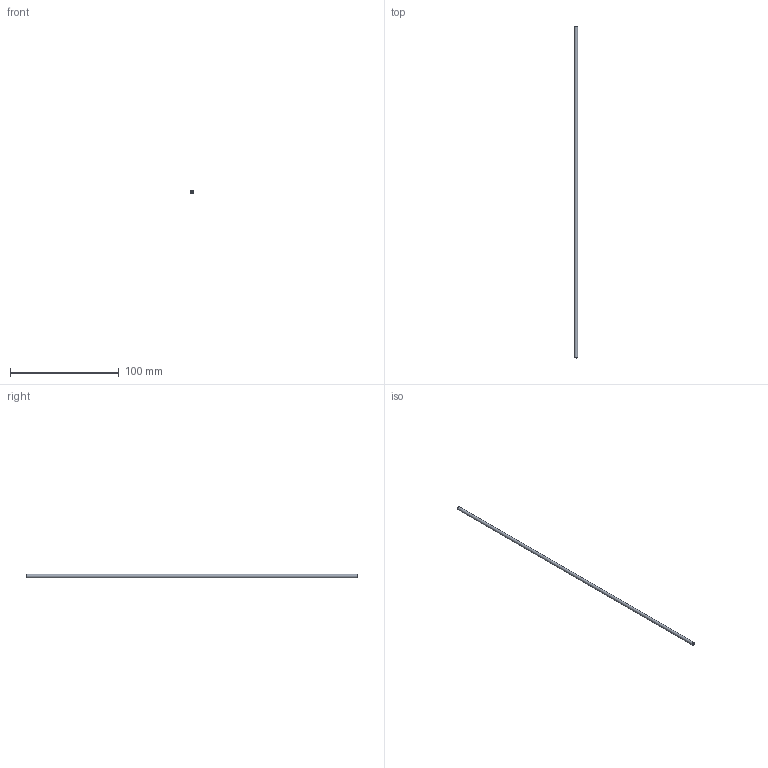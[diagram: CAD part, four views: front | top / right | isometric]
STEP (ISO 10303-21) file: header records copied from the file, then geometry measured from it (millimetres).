
FILE_DESCRIPTION(/* description */ (''),/* implementation_level */ '2;1');
FILE_NAME(/* name */ 'C:/Users/drich/Desktop/125T-12 v1.step',/* time_stamp */ '2019-12-27T17:24:55-06:00',/* author */ (''),/* organization */ (''),/* preprocessor_version */ 'ST-DEVELOPER v18',/* originating_system */ 'Autodesk Translation Framework v8.12.0.6',/* authorisation */ '');
FILE_SCHEMA (('AUTOMOTIVE_DESIGN { 1 0 10303 214 3 1 1 }'));
Length unit declared in the file: inch
Products named in the file (1): 125T-12
Bounding box: 3.1 x 304.8 x 3.1 mm (x, y, z)
Volume: 1719.8 mm3; surface area: 4457 mm2
Topology: 1 solids, 1 shells, 6 faces, 14 edges, 10 vertices
Faces by surface type: cone 2, cylinder 2, plane 2
Full cylindrical faces by diameter (mm): 1.549 x1, 3.096 x1
Entity records: 230 total; most frequent: DIRECTION 38, CARTESIAN_POINT 31, ORIENTED_EDGE 28, AXIS2_PLACEMENT_3D 17, EDGE_CURVE 14, CIRCLE 10, VERTEX_POINT 10, EDGE_LOOP 8
